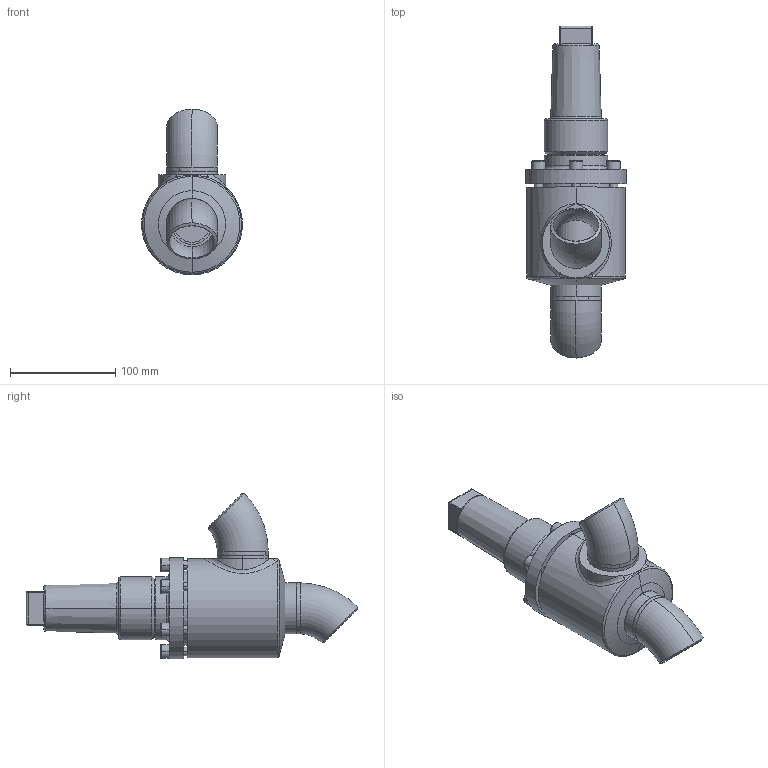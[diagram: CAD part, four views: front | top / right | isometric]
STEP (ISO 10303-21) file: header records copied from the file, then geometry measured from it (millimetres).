
FILE_DESCRIPTION (( 'STEP AP214' ), '1' );
FILE_NAME ('HRAR22300D14-DN040_R1_PS40.STEP', '2006-04-27T12:32:22', ( 'Herr Grams' ), ( 'AWP GmbH' ), 'SwSTEP 2.0', 'SolidWorks 2002296', '' );
FILE_SCHEMA (( 'AUTOMOTIVE_DESIGN' ));
Length unit declared in the file: millimetre
Products named in the file (10): HRAR22300D14-DN040_R1_PS40; Gehäuse-kpl16300-DN040_R1_Standard; Gehäuse16300-DN040_Standard; Rohrbogen 45°_R1-Fase_Rohrbogen-DN040-45°; bead16300-Geh-040-2_Standard; bead16300-Geh-040-1_Standard; Kappe16402_DN040-65_Standard; AVR26300E15_Deck+Schr-DN40-50_Standard; Deckel26300E15-DN40-50_Standard; Zylinderschraube-DIN912_M 8x 25
Assembly tree (15 placements, depth 3):
  HRAR22300D14-DN040_R1_PS40
    Gehäuse-kpl16300-DN040_R1_Standard
      Rohrbogen 45°_R1-Fase_Rohrbogen-DN040-45°  x2
      bead16300-Geh-040-2_Standard
      bead16300-Geh-040-1_Standard
      Gehäuse16300-DN040_Standard
    Kappe16402_DN040-65_Standard
    AVR26300E15_Deck+Schr-DN40-50_Standard
      Zylinderschraube-DIN912_M 8x 25  x6
      Deckel26300E15-DN40-50_Standard
Bounding box: 96 x 315.38 x 157.38 mm (x, y, z)
Volume: 721214.5 mm3; surface area: 167090.2 mm2
Topology: 13 solids, 13 shells, 281 faces, 631 edges, 400 vertices
Faces by surface type: plane 96, cylinder 93, cone 48, torus 33, bspline 11
Entity records: 33737 total; most frequent: CARTESIAN_POINT 28892, DIRECTION 902, ORIENTED_EDGE 838, EDGE_CURVE 419, AXIS2_PLACEMENT_3D 383, VERTEX_POINT 266, EDGE_LOOP 217, CIRCLE 193
